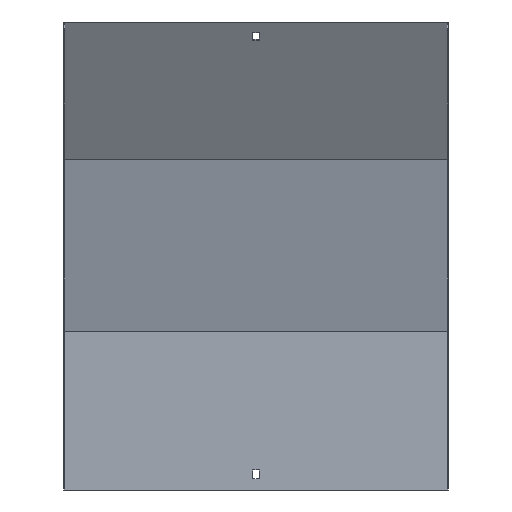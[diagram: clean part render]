
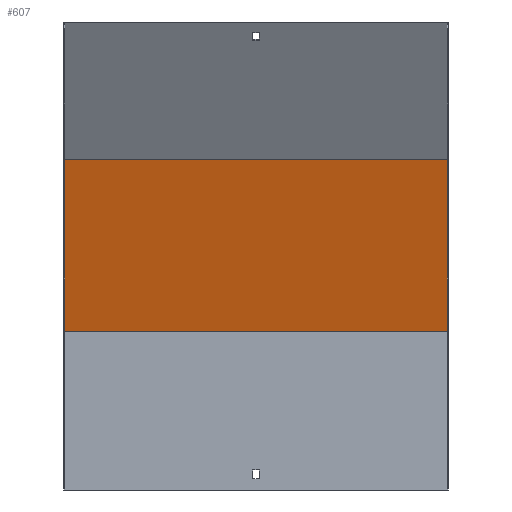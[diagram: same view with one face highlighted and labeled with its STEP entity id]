
A CAD part, front view. The second image highlights one B-rep face of the part: STEP entity #607.
In plain terms, the highlighted planar face has unit normal (0, -0.966, -0.259).
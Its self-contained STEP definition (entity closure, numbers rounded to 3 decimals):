
#1 = CARTESIAN_POINT ( 'NONE',  ( 201.5, 18.5, 165.436 ) ) ;
#21 = ORIENTED_EDGE ( 'NONE', *, *, #439, .F. ) ;
#46 = EDGE_CURVE ( 'NONE', #178, #441, #202, .T. ) ;
#69 = DIRECTION ( 'NONE',  ( 0., 0.259, -0.966 ) ) ;
#106 = EDGE_CURVE ( 'NONE', #178, #766, #323, .T. ) ;
#113 = ORIENTED_EDGE ( 'NONE', *, *, #106, .F. ) ;
#119 = DIRECTION ( 'NONE',  ( 0., -0.259, 0.966 ) ) ;
#126 = PLANE ( 'NONE',  #469 ) ;
#127 = CARTESIAN_POINT ( 'NONE',  ( -200., 18.5, 165.436 ) ) ;
#133 = CARTESIAN_POINT ( 'NONE',  ( 201.5, 17.87, 167.788 ) ) ;
#141 = DIRECTION ( 'NONE',  ( -1., 0., 0. ) ) ;
#154 = VECTOR ( 'NONE', #755, 1000. ) ;
#177 = DIRECTION ( 'NONE',  ( -1., 0., 0. ) ) ;
#178 = VERTEX_POINT ( 'NONE', #521 ) ;
#202 = LINE ( 'NONE', #477, #701 ) ;
#223 = VECTOR ( 'NONE', #141, 1000. ) ;
#265 = DIRECTION ( 'NONE',  ( 0., -0.966, -0.259 ) ) ;
#290 = EDGE_LOOP ( 'NONE', ( #21, #113, #559, #794 ) ) ;
#323 = LINE ( 'NONE', #1, #223 ) ;
#324 = FACE_OUTER_BOUND ( 'NONE', #290, .T. ) ;
#360 = LINE ( 'NONE', #620, #154 ) ;
#413 = VECTOR ( 'NONE', #177, 1000. ) ;
#439 = EDGE_CURVE ( 'NONE', #766, #753, #360, .T. ) ;
#441 = VERTEX_POINT ( 'NONE', #508 ) ;
#469 = AXIS2_PLACEMENT_3D ( 'NONE', #133, #265, #69 ) ;
#477 = CARTESIAN_POINT ( 'NONE',  ( 200., 58.62, 15.707 ) ) ;
#508 = CARTESIAN_POINT ( 'NONE',  ( 200., -29.866, 345.939 ) ) ;
#521 = CARTESIAN_POINT ( 'NONE',  ( 200., 18.5, 165.436 ) ) ;
#559 = ORIENTED_EDGE ( 'NONE', *, *, #46, .T. ) ;
#599 = CARTESIAN_POINT ( 'NONE',  ( -200., -29.866, 345.939 ) ) ;
#607 = ADVANCED_FACE ( 'NONE', ( #324 ), #126, .T. ) ;
#620 = CARTESIAN_POINT ( 'NONE',  ( -200., 58.62, 15.707 ) ) ;
#681 = EDGE_CURVE ( 'NONE', #441, #753, #719, .T. ) ;
#701 = VECTOR ( 'NONE', #119, 1000. ) ;
#719 = LINE ( 'NONE', #726, #413 ) ;
#726 = CARTESIAN_POINT ( 'NONE',  ( 201.5, -29.866, 345.939 ) ) ;
#753 = VERTEX_POINT ( 'NONE', #599 ) ;
#755 = DIRECTION ( 'NONE',  ( 0., -0.259, 0.966 ) ) ;
#766 = VERTEX_POINT ( 'NONE', #127 ) ;
#794 = ORIENTED_EDGE ( 'NONE', *, *, #681, .T. ) ;
